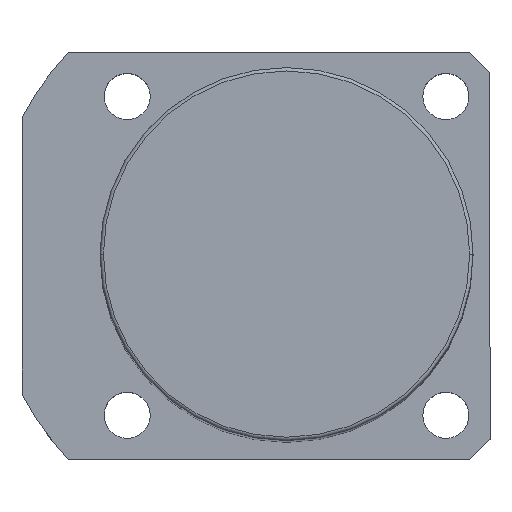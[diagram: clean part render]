
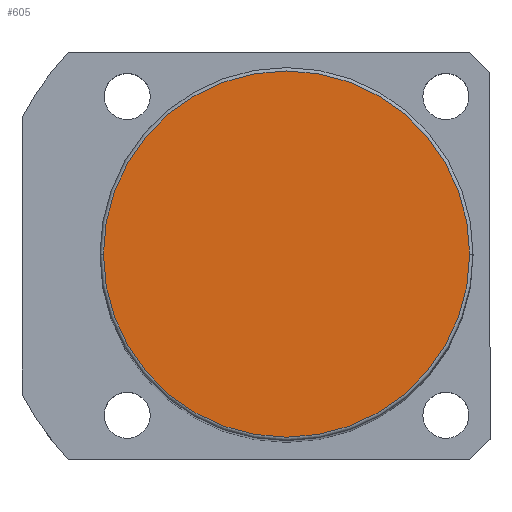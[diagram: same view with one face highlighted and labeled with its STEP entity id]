
A CAD part, top view. The second image highlights one B-rep face of the part: STEP entity #605.
In plain terms, the highlighted planar face has unit normal (0, 0, 1).
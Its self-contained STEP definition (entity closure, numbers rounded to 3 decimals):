
#148 = VERTEX_POINT ( 'NONE', #755 ) ;
#188 = VERTEX_POINT ( 'NONE', #908 ) ;
#304 = CARTESIAN_POINT ( 'NONE',  ( 0., 0., 161. ) ) ;
#327 = PLANE ( 'NONE',  #2036 ) ;
#456 = CIRCLE ( 'NONE', #865, 27. ) ;
#532 = EDGE_CURVE ( 'NONE', #188, #148, #1321, .T. ) ;
#605 = ADVANCED_FACE ( 'NONE', ( #721 ), #327, .T. ) ;
#638 = AXIS2_PLACEMENT_3D ( 'NONE', #1035, #1886, #1376 ) ;
#721 = FACE_OUTER_BOUND ( 'NONE', #1118, .T. ) ;
#755 = CARTESIAN_POINT ( 'NONE',  ( -27., 0., 161. ) ) ;
#839 = ORIENTED_EDGE ( 'NONE', *, *, #532, .T. ) ;
#865 = AXIS2_PLACEMENT_3D ( 'NONE', #304, #1878, #2174 ) ;
#908 = CARTESIAN_POINT ( 'NONE',  ( 27., 0., 161. ) ) ;
#1035 = CARTESIAN_POINT ( 'NONE',  ( 0., 0., 161. ) ) ;
#1118 = EDGE_LOOP ( 'NONE', ( #839, #1541 ) ) ;
#1225 = CARTESIAN_POINT ( 'NONE',  ( 0., 0., 161. ) ) ;
#1321 = CIRCLE ( 'NONE', #638, 27. ) ;
#1376 = DIRECTION ( 'NONE',  ( 1., 0., 0. ) ) ;
#1541 = ORIENTED_EDGE ( 'NONE', *, *, #1795, .T. ) ;
#1570 = DIRECTION ( 'NONE',  ( 0., 0., 1. ) ) ;
#1751 = DIRECTION ( 'NONE',  ( 1., 0., 0. ) ) ;
#1795 = EDGE_CURVE ( 'NONE', #148, #188, #456, .T. ) ;
#1878 = DIRECTION ( 'NONE',  ( 0., 0., 1. ) ) ;
#1886 = DIRECTION ( 'NONE',  ( 0., 0., 1. ) ) ;
#2036 = AXIS2_PLACEMENT_3D ( 'NONE', #1225, #1570, #1751 ) ;
#2174 = DIRECTION ( 'NONE',  ( 1., 0., 0. ) ) ;
